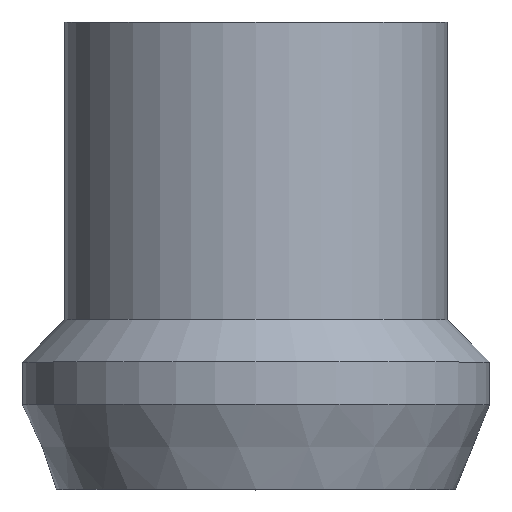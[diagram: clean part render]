
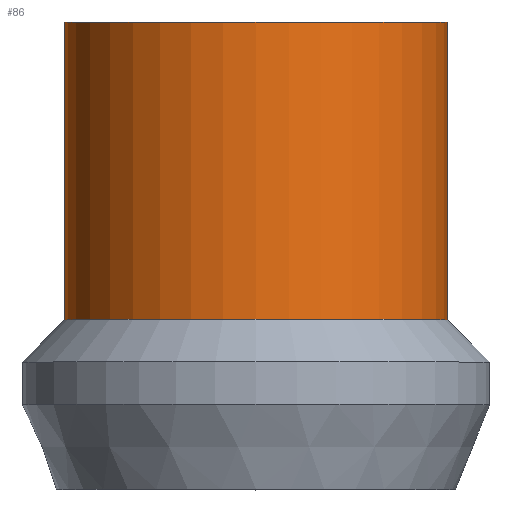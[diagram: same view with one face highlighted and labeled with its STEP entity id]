
A CAD part, top view. The second image highlights one B-rep face of the part: STEP entity #86.
In plain terms, the highlighted cylindrical face has radius 4.5 mm (diameter 9 mm), a full revolution.
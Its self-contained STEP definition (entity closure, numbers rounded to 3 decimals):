
#20=FACE_BOUND('',#36,.T.);
#27=FACE_OUTER_BOUND('',#35,.T.);
#35=EDGE_LOOP('',(#70));
#36=EDGE_LOOP('',(#71));
#49=CIRCLE('',#98,4.5);
#50=CIRCLE('',#99,4.5);
#56=VERTEX_POINT('',#145);
#57=VERTEX_POINT('',#147);
#63=EDGE_CURVE('',#56,#56,#49,.T.);
#64=EDGE_CURVE('',#57,#57,#50,.T.);
#70=ORIENTED_EDGE('',*,*,#63,.T.);
#71=ORIENTED_EDGE('',*,*,#64,.F.);
#83=CYLINDRICAL_SURFACE('',#97,4.5);
#86=ADVANCED_FACE('',(#27,#20),#83,.T.);
#97=AXIS2_PLACEMENT_3D('',#144,#116,#117);
#98=AXIS2_PLACEMENT_3D('',#146,#118,#119);
#99=AXIS2_PLACEMENT_3D('',#148,#120,#121);
#116=DIRECTION('center_axis',(0.,-1.,0.));
#117=DIRECTION('ref_axis',(1.,0.,0.));
#118=DIRECTION('center_axis',(0.,-1.,0.));
#119=DIRECTION('ref_axis',(1.,0.,0.));
#120=DIRECTION('center_axis',(0.,-1.,0.));
#121=DIRECTION('ref_axis',(1.,0.,0.));
#144=CARTESIAN_POINT('Origin',(0.,7.5,0.));
#145=CARTESIAN_POINT('',(4.5,11.,0.));
#146=CARTESIAN_POINT('Origin',(0.,11.,0.));
#147=CARTESIAN_POINT('',(4.5,4.,0.));
#148=CARTESIAN_POINT('Origin',(0.,4.,0.));
